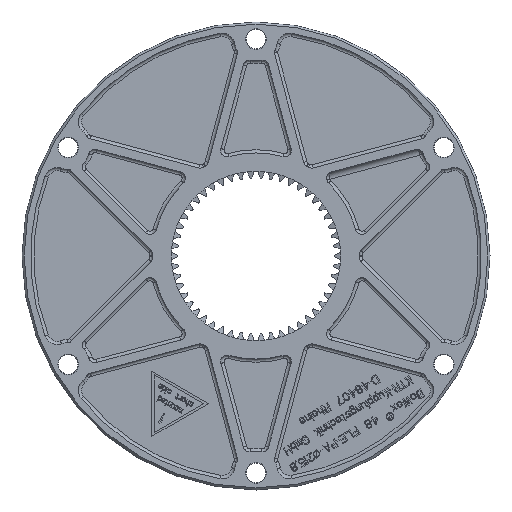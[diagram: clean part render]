
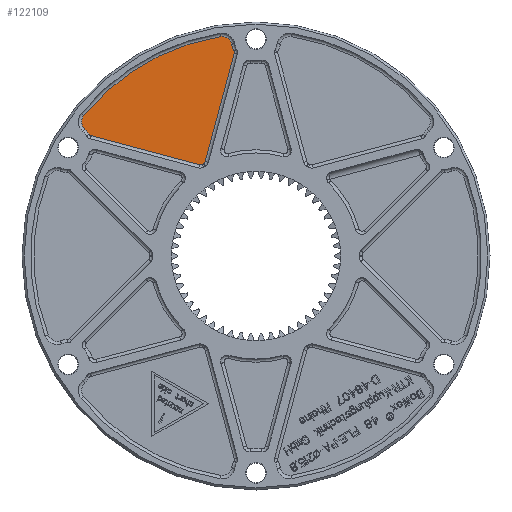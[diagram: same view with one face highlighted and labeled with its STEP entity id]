
A CAD part, left-side view. The second image highlights one B-rep face of the part: STEP entity #122109.
In plain terms, the highlighted planar face has unit normal (-1, 0, 0).
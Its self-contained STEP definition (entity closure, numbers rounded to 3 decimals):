
#31885=CARTESIAN_POINT('',(4.5,75.948,61.934));
#31886=DIRECTION('',(-1.,0.,0.));
#31887=DIRECTION('',(0.,0.775,0.632));
#31888=AXIS2_PLACEMENT_3D('',#31885,#31886,#31887);
#31895=CARTESIAN_POINT('',(4.5,0.,0.));
#31896=DIRECTION('',(-1.,0.,0.));
#31897=DIRECTION('',(0.,0.16,0.987));
#31898=AXIS2_PLACEMENT_3D('',#31895,#31896,#31897);
#31910=CARTESIAN_POINT('',(4.5,15.662,96.74));
#31911=DIRECTION('',(1.,0.,0.));
#31912=DIRECTION('',(0.,0.16,0.987));
#31913=AXIS2_PLACEMENT_3D('',#31910,#31911,#31912);
#31933=CARTESIAN_POINT('',(4.5,0.,100.01));
#31934=DIRECTION('',(1.,0.,0.));
#31935=DIRECTION('',(0.,0.884,-0.468));
#31936=AXIS2_PLACEMENT_3D('',#31933,#31934,#31935);
#31948=CARTESIAN_POINT('',(4.5,86.611,50.005));
#31949=DIRECTION('',(1.,0.,0.));
#31950=DIRECTION('',(0.,-0.666,0.746));
#31951=AXIS2_PLACEMENT_3D('',#31948,#31949,#31950);
#31973=CARTESIAN_POINT('',(4.5,75.601,56.918));
#31974=DIRECTION('',(1.,0.,0.));
#31975=DIRECTION('',(0.,0.259,-0.966));
#31976=AXIS2_PLACEMENT_3D('',#31973,#31974,#31975);
#32014=CARTESIAN_POINT('',(4.5,25.612,43.523));
#32015=DIRECTION('',(-1.,0.,0.));
#32016=DIRECTION('',(0.,0.259,-0.966));
#32017=AXIS2_PLACEMENT_3D('',#32014,#32015,#32016);
#32019=DIRECTION('',(0.,-0.966,-0.259));
#32020=VECTOR('',#32019,51.753);
#32021=CARTESIAN_POINT('',(4.5,75.99,55.469));
#32022=LINE('',#32021,#32020);
#32042=CARTESIAN_POINT('',(4.5,0.,0.));
#32043=DIRECTION('',(1.,0.,0.));
#32044=DIRECTION('',(0.,0.507,0.862));
#32045=AXIS2_PLACEMENT_3D('',#32042,#32043,#32044);
#32065=DIRECTION('',(0.,-0.259,0.966));
#32066=VECTOR('',#32065,51.753);
#32067=CARTESIAN_POINT('',(4.5,23.437,43.554));
#32068=LINE('',#32067,#32066);
#32088=CARTESIAN_POINT('',(4.5,11.491,93.932));
#32089=DIRECTION('',(1.,0.,0.));
#32090=DIRECTION('',(0.,-0.884,0.468));
#32091=AXIS2_PLACEMENT_3D('',#32088,#32089,#32090);
#32116=CARTESIAN_POINT('',(4.5,24.886,43.942));
#32117=DIRECTION('',(1.,0.,0.));
#32118=DIRECTION('',(0.,-0.966,-0.259));
#32119=AXIS2_PLACEMENT_3D('',#32116,#32117,#32118);
#60295=CARTESIAN_POINT('',(4.5,16.382,101.182));
#60296=CARTESIAN_POINT('',(4.5,79.436,64.778));
#60297=VERTEX_POINT('',#60295);
#60298=VERTEX_POINT('',#60296);
#60301=CARTESIAN_POINT('',(4.5,78.947,58.579));
#60302=VERTEX_POINT('',#60301);
#60303=CARTESIAN_POINT('',(4.5,76.872,56.12));
#60304=VERTEX_POINT('',#60303);
#60309=CARTESIAN_POINT('',(4.5,75.99,55.469));
#60310=VERTEX_POINT('',#60309);
#60311=CARTESIAN_POINT('',(4.5,26.,42.074));
#60312=VERTEX_POINT('',#60311);
#60317=CARTESIAN_POINT('',(4.5,24.851,42.23));
#60318=VERTEX_POINT('',#60317);
#60321=CARTESIAN_POINT('',(4.5,24.147,42.637));
#60322=VERTEX_POINT('',#60321);
#60325=CARTESIAN_POINT('',(4.5,23.437,43.554));
#60326=VERTEX_POINT('',#60325);
#60327=CARTESIAN_POINT('',(4.5,10.043,93.543));
#60328=VERTEX_POINT('',#60327);
#60333=CARTESIAN_POINT('',(4.5,10.166,94.633));
#60334=VERTEX_POINT('',#60333);
#60335=CARTESIAN_POINT('',(4.5,11.257,97.66));
#60336=VERTEX_POINT('',#60335);
#122082=CARTESIAN_POINT('',(4.5,0.,0.));
#122083=DIRECTION('',(-1.,0.,0.));
#122084=DIRECTION('',(0.,0.,-1.));
#122085=AXIS2_PLACEMENT_3D('',#122082,#122083,#122084);
#122086=PLANE('',#122085);
#122088=ORIENTED_EDGE('',*,*,#122087,.F.);
#122089=ORIENTED_EDGE('',*,*,#122005,.F.);
#122090=ORIENTED_EDGE('',*,*,#122020,.F.);
#122091=ORIENTED_EDGE('',*,*,#122035,.T.);
#122092=ORIENTED_EDGE('',*,*,#122073,.F.);
#122094=ORIENTED_EDGE('',*,*,#122093,.T.);
#122096=ORIENTED_EDGE('',*,*,#122095,.F.);
#122098=ORIENTED_EDGE('',*,*,#122097,.T.);
#122100=ORIENTED_EDGE('',*,*,#122099,.F.);
#122102=ORIENTED_EDGE('',*,*,#122101,.F.);
#122104=ORIENTED_EDGE('',*,*,#122103,.F.);
#122106=ORIENTED_EDGE('',*,*,#122105,.T.);
#122107=EDGE_LOOP('',(#122088,#122089,#122090,#122091,#122092,#122094,#122096,
#122098,#122100,#122102,#122104,#122106));
#122108=FACE_OUTER_BOUND('',#122107,.F.);
#122109=ADVANCED_FACE('',(#122108),#122086,.T.);
#31889=CIRCLE('',#31888,4.5);
#31899=CIRCLE('',#31898,102.5);
#31914=CIRCLE('',#31913,4.5);
#31937=CIRCLE('',#31936,11.5);
#31952=CIRCLE('',#31951,11.5);
#31977=CIRCLE('',#31976,1.5);
#32018=CIRCLE('',#32017,1.5);
#32046=CIRCLE('',#32045,49.);
#32092=CIRCLE('',#32091,1.5);
#32120=CIRCLE('',#32119,1.5);
#122005=EDGE_CURVE('',#60298,#60302,#31889,.T.);
#122020=EDGE_CURVE('',#60297,#60298,#31899,.T.);
#122035=EDGE_CURVE('',#60297,#60336,#31914,.T.);
#122073=EDGE_CURVE('',#60334,#60336,#31937,.T.);
#122087=EDGE_CURVE('',#60302,#60304,#31952,.T.);
#122093=EDGE_CURVE('',#60334,#60328,#32092,.T.);
#122095=EDGE_CURVE('',#60326,#60328,#32068,.T.);
#122097=EDGE_CURVE('',#60326,#60322,#32120,.T.);
#122099=EDGE_CURVE('',#60318,#60322,#32046,.T.);
#122101=EDGE_CURVE('',#60312,#60318,#32018,.T.);
#122103=EDGE_CURVE('',#60310,#60312,#32022,.T.);
#122105=EDGE_CURVE('',#60310,#60304,#31977,.T.);
